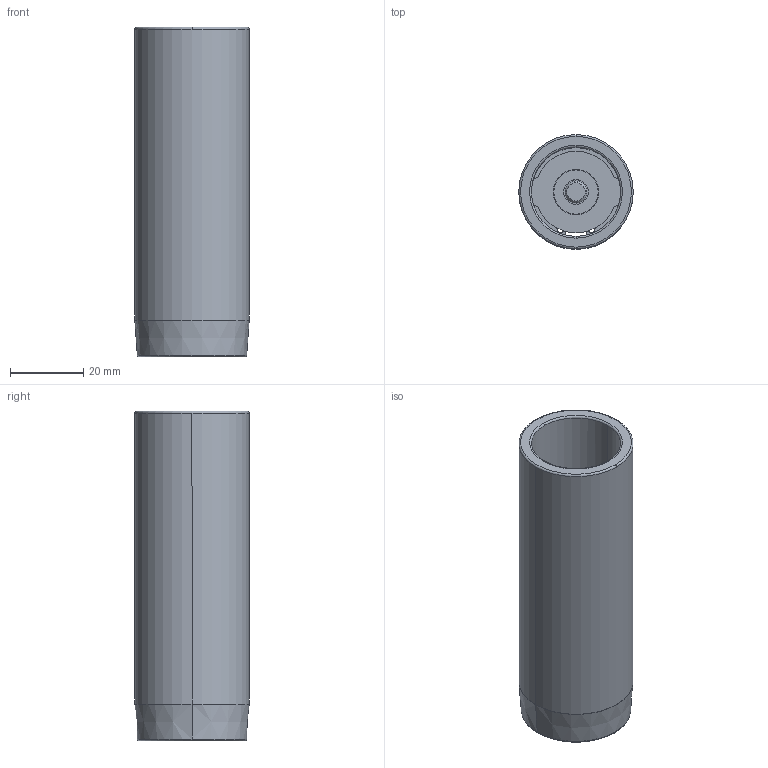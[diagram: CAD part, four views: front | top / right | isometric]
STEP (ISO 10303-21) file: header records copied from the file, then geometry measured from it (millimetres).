
FILE_DESCRIPTION((''),'2;1');
FILE_NAME('C12_024_090.stp','2009-01-28T08:30:14',(''),(''),'Mechanical Desktop 2009','Mechanical Desktop 2009',', , ');
FILE_SCHEMA(('CONFIG_CONTROL_DESIGN'));
Length unit declared in the file: millimetre
Products named in the file (2): Product; blmdl1
Assembly tree (1 placements, depth 2):
  Product
    blmdl1
Bounding box: 31.25 x 31.25 x 90 mm (x, y, z)
Volume: 28066.6 mm3; surface area: 19237.3 mm2
Topology: 5 solids, 5 shells, 79 faces, 200 edges, 134 vertices
Faces by surface type: cylinder 34, plane 29, torus 10, cone 6
Entity records: 2585 total; most frequent: DIRECTION 480, CARTESIAN_POINT 435, ORIENTED_EDGE 400, AXIS2_PLACEMENT_3D 203, EDGE_CURVE 200, VERTEX_POINT 134, CIRCLE 122, EDGE_LOOP 92
